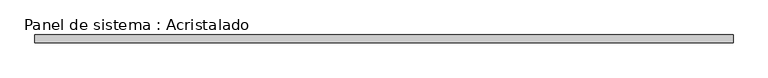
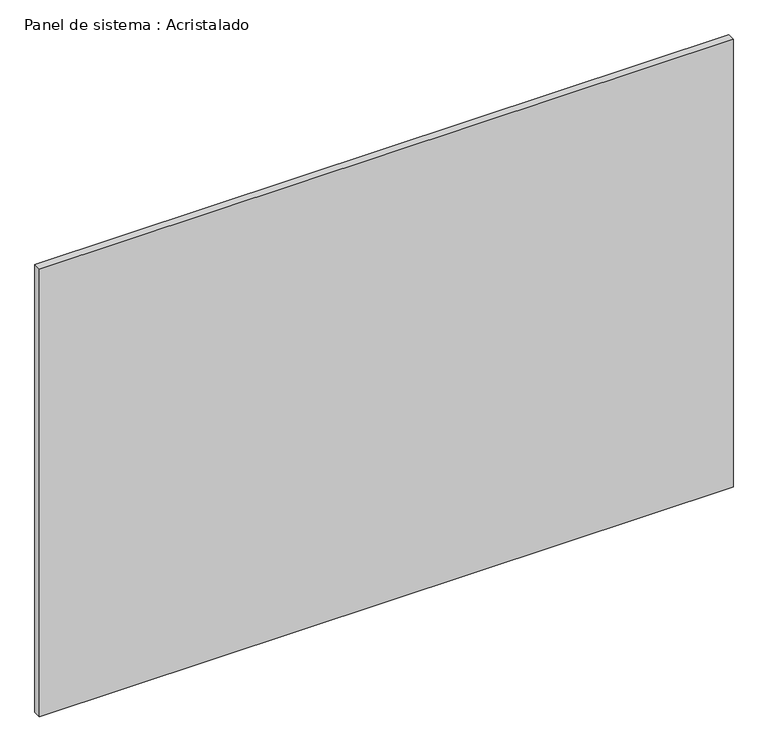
"""IFC4 building model written with IfcOpenShell, lengths in millimetres: plate geometry, Panel de sistema : Acristalado."""

from ifc_helpers import new_model, si_unit, origin, origin_with_axes, place, context, project, spatial, polyline, outline, extrude, source, transform, mapped, element, save


def panel_de_sistema_acristalado_5229fa2a(model_context):
    return source(origin(), model_context, "Body", "SweptSolid", [
        extrude(outline(polyline([(908.0426254, -10.0), (-908.0426254, -10.0), (-908.0426254, 10.0), (908.0426254, 10.0), (908.0426254, -10.0)])), origin_with_axes(), (0.0, 0.0, 1.0), 1240.0),
    ])


if __name__ == "__main__":
    model = new_model("IFC4")
    model_context = context("Model", 3, world=origin())
    ifc_project = project(units=[si_unit("LENGTHUNIT", "METRE", prefix="MILLI")], contexts=[model_context])
    site = spatial("IfcSite", under=ifc_project)
    building = spatial("IfcBuilding", under=site)
    placement = place(None, origin())
    panel_de_sistema_acristalado_shape = panel_de_sistema_acristalado_5229fa2a(model_context)
    element("IfcPlate", 1, ObjectType="Panel de sistema : Acristalado", at=placement, inside=building, context=model_context, shape_type="MappedRepresentation", body=[
        mapped(panel_de_sistema_acristalado_shape, transform((0.0, 0.0, 0.0), x_axis=(1.0, 0.0, 0.0), y_axis=(0.0, 1.0, 0.0), z_axis=(0.0, 0.0, 1.0))),
    ])
    save(model, "model.ifc")
